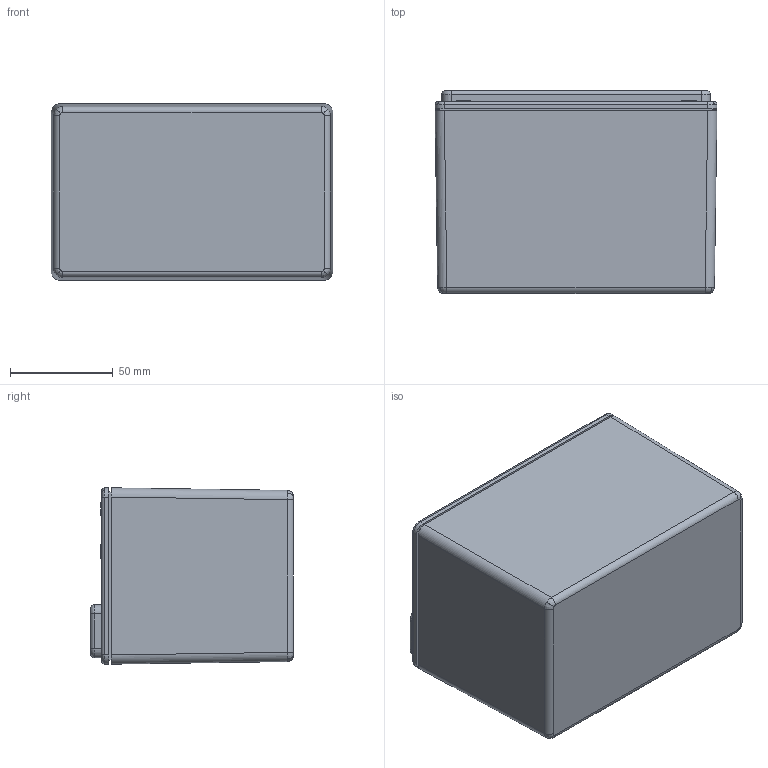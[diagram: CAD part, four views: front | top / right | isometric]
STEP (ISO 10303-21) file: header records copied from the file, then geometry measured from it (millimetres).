
FILE_DESCRIPTION (( 'STEP AP203' ), '1' );
FILE_NAME ('PC310.STEP', '2014-10-09T16:40:27', ( '' ), ( '' ), 'SwSTEP 2.0', 'SolidWorks 2014', '' );
FILE_SCHEMA (( 'CONFIG_CONTROL_DESIGN' ));
Length unit declared in the file: millimetre
Products named in the file (1): PC310
Bounding box: 137.5 x 99 x 86 mm (x, y, z)
Volume: 1094705.4 mm3; surface area: 66205.4 mm2
Topology: 1 solids, 1 shells, 116 faces, 282 edges, 180 vertices
Faces by surface type: plane 54, cylinder 42, bspline 16, torus 4
Entity records: 3659 total; most frequent: CARTESIAN_POINT 971, ORIENTED_EDGE 564, DIRECTION 524, EDGE_CURVE 282, AXIS2_PLACEMENT_3D 181, VERTEX_POINT 180, LINE 162, VECTOR 162
